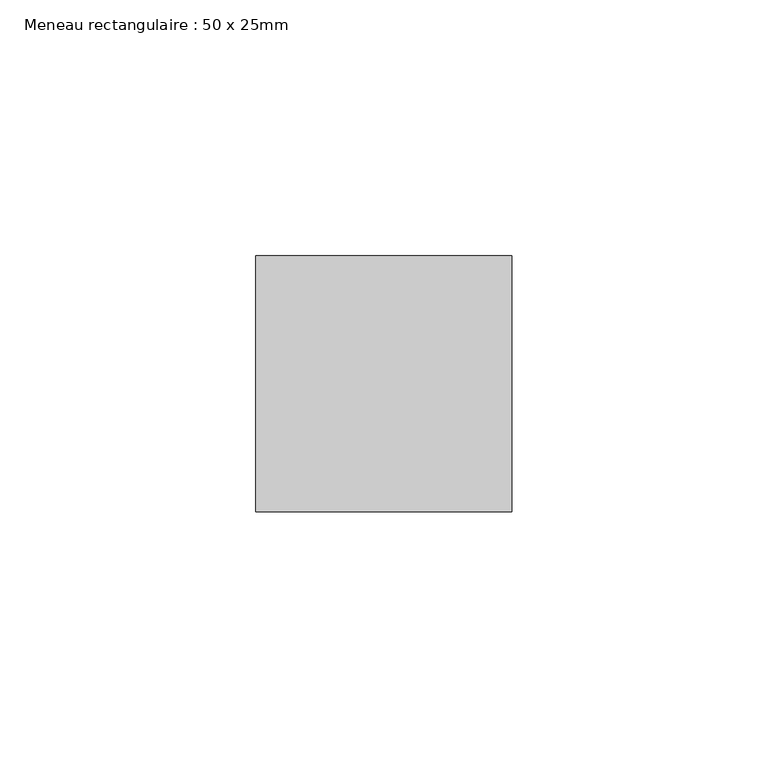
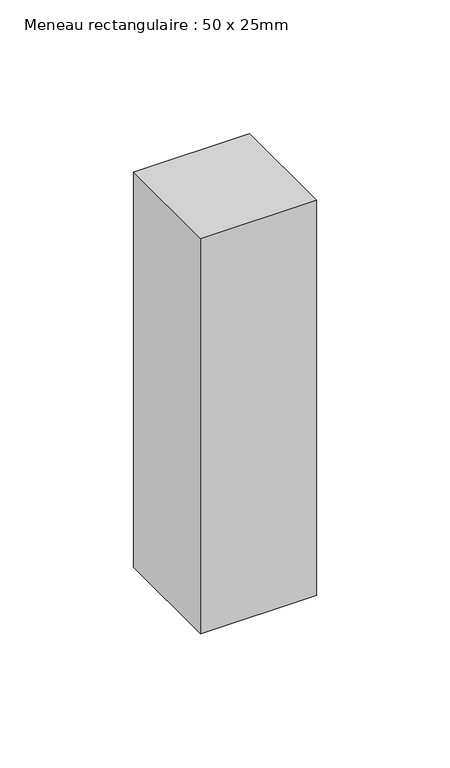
"""IFC4 building model written with IfcOpenShell, lengths in millimetres: member geometry, Meneau rectangulaire : 50 x 25mm."""

import ifcopenshell
import ifcopenshell.guid

model = None  # the IFC model being written
_history = None  # IfcOwnerHistory: only IFC2X3 demands one
_inside = {}  # id of a spatial element -> (the spatial element, [elements in it])
_under = {}  # id of a project, library or spatial element -> (it, [spatial elements below it])
_declared = {}  # id of a project -> (the project, [libraries it declares])
_typed = {}  # id of a type object -> (the type object, [elements of that type])
_made_of = {}  # id of a material, layer set ... -> (it, [elements and type objects made of it])


def new_model(schema):
    """Start an empty IFC model of exactly this schema.

    Asked for "IFC4X3", IfcOpenShell would pick the latest addendum, in which some entities
    have other attributes; the version numbers below select the first issue.
    IFC2X3 requires an IfcOwnerHistory on every rooted entity: one is made here for all.
    """
    global model, _history
    if schema == "IFC4X3":
        model = ifcopenshell.file(schema_version=(4, 3, 0, 0))
    else:
        model = ifcopenshell.file(schema=schema)
    _inside.clear()
    _under.clear()
    _declared.clear()
    _typed.clear()
    _made_of.clear()
    _history = None
    if model.schema == "IFC2X3":
        org = make("IfcOrganization", Name="unknown")
        user = make(
            "IfcPersonAndOrganization",
            ThePerson=make("IfcPerson", FamilyName="unknown"),
            TheOrganization=org,
        )
        app = make(
            "IfcApplication",
            ApplicationDeveloper=org,
            Version="unknown",
            ApplicationFullName="unknown",
            ApplicationIdentifier="unknown",
        )
        _history = make(
            "IfcOwnerHistory",
            OwningUser=user,
            OwningApplication=app,
            ChangeAction="ADDED",
            CreationDate=0,
        )
    return model


def make(cls, **values):
    """One entity of the class cls with the attributes given. An attribute that is None is left unset."""
    return model.create_entity(
        cls, **{name: value for name, value in values.items() if value is not None}
    )


def rooted(cls, **values):
    """An entity with a GlobalId (a new one), such as an element, a storey or a relation."""
    return make(cls, GlobalId=ifcopenshell.guid.new(), OwnerHistory=_history, **values)


def si_unit(unit_type, name, prefix=None):
    """IfcSIUnit, for example si_unit("LENGTHUNIT", "METRE", prefix="MILLI")."""
    return make("IfcSIUnit", UnitType=unit_type, Prefix=prefix, Name=name)


def assignment(units):
    """IfcUnitAssignment: the units of a project."""
    return None if units is None else make("IfcUnitAssignment", Units=units)


def point(xyz):
    """IfcCartesianPoint."""
    return None if xyz is None else make("IfcCartesianPoint", Coordinates=xyz)


def direction(xyz):
    """IfcDirection."""
    return None if xyz is None else make("IfcDirection", DirectionRatios=xyz)


def frame(location, z_axis=None, x_axis=None):
    """IfcAxis2Placement3D, a coordinate frame: its origin and axes. An axis left out is left unset."""
    return make(
        "IfcAxis2Placement3D",
        Location=point(location),
        Axis=direction(z_axis),
        RefDirection=direction(x_axis),
    )


def origin():
    """The frame at (0, 0, 0) with its axes left unset."""
    return frame((0.0, 0.0, 0.0))


def place(relative_to, where):
    """IfcLocalPlacement: puts the frame where relative to a parent placement (None: the world)."""
    return make(
        "IfcLocalPlacement", PlacementRelTo=relative_to, RelativePlacement=where
    )


def context(
    kind, dimensions, precision=None, world=None, true_north=None, identifier=None
):
    """IfcGeometricRepresentationContext, for example the 3D "Model" context."""
    return make(
        "IfcGeometricRepresentationContext",
        ContextIdentifier=identifier,
        ContextType=kind,
        CoordinateSpaceDimension=dimensions,
        Precision=precision,
        WorldCoordinateSystem=world,
        TrueNorth=true_north,
    )


def project(units=None, contexts=None):
    """IfcProject with its units and contexts."""
    return rooted(
        "IfcProject",
        Name="project",
        RepresentationContexts=contexts,
        UnitsInContext=assignment(units),
    )


def spatial(cls, under=None, at=None, **own):
    """A site, building, storey or space (cls), placed at a placement, below another one or the project."""
    s = rooted(cls, ObjectPlacement=at, **own)
    if under is not None:
        _under.setdefault(under.id(), (under, []))[1].append(s)
    return s


def polyline(points):
    """IfcPolyline through the points."""
    return make("IfcPolyline", Points=[point(p) for p in points])


def outline(outer, holes=None, kind="AREA"):
    """IfcArbitraryClosedProfileDef: a profile drawn as a closed curve; with holes, ...WithVoids."""
    if holes is None:
        return make("IfcArbitraryClosedProfileDef", ProfileType=kind, OuterCurve=outer)
    return make(
        "IfcArbitraryProfileDefWithVoids",
        ProfileType=kind,
        OuterCurve=outer,
        InnerCurves=holes,
    )


def extrude(swept, where, along, depth):
    """IfcExtrudedAreaSolid: the profile swept, set in the frame where, extruded along a direction by depth."""
    return make(
        "IfcExtrudedAreaSolid",
        SweptArea=swept,
        Position=where,
        ExtrudedDirection=direction(along),
        Depth=depth,
    )


def shape(context_of_items, identifier, shape_type, items):
    """IfcShapeRepresentation: the items that make up one representation, for example the "Body"."""
    return make(
        "IfcShapeRepresentation",
        ContextOfItems=context_of_items,
        RepresentationIdentifier=identifier,
        RepresentationType=shape_type,
        Items=items,
    )


def source(mapping_origin, context_of_items, identifier, shape_type, items):
    """IfcRepresentationMap: a shape defined once, which mapped items show again and again."""
    return make(
        "IfcRepresentationMap",
        MappingOrigin=mapping_origin,
        MappedRepresentation=shape(context_of_items, identifier, shape_type, items),
    )


def transform(
    local_origin,
    x_axis=None,
    y_axis=None,
    z_axis=None,
    scale=None,
    scale2=None,
    scale3=None,
    uniform=True,
):
    """IfcCartesianTransformationOperator3D, or its non-uniform kind. x_axis, y_axis, z_axis: its Axis1, 2, 3."""
    if uniform:
        return make(
            "IfcCartesianTransformationOperator3D",
            Axis1=direction(x_axis),
            Axis2=direction(y_axis),
            LocalOrigin=point(local_origin),
            Scale=scale,
            Axis3=direction(z_axis),
        )
    return make(
        "IfcCartesianTransformationOperator3DnonUniform",
        Axis1=direction(x_axis),
        Axis2=direction(y_axis),
        LocalOrigin=point(local_origin),
        Scale=scale,
        Axis3=direction(z_axis),
        Scale2=scale2,
        Scale3=scale3,
    )


def mapped(mapping_source, mapping_target):
    """IfcMappedItem: shows the shape of a source again, moved by a transform."""
    return make(
        "IfcMappedItem", MappingSource=mapping_source, MappingTarget=mapping_target
    )


def made_of(thing, what):
    """Note that an element or type object is made of a material, layer set ...; save() writes the relation."""
    if what is not None:
        _made_of.setdefault(what.id(), (what, []))[1].append(thing)
    return thing


def element(
    cls,
    number,
    at=None,
    inside=None,
    cuts=None,
    type_object=None,
    material=None,
    context=None,
    identifier="Body",
    shape_type=None,
    held_by="IfcProductDefinitionShape",
    body=None,
    shapes=None,
    **own,
):
    """One element of the class cls, such as IfcWall. Its Tag is "e" and its number.

    at: its placement. inside: the storey or other place that contains it. cuts: it is an
    opening in that element (IfcRelVoidsElement). A single representation is given by context,
    identifier, shape_type and body (its items); several are given by shapes. held_by: the class
    of the entity that holds the representations. save() writes the other relations.
    """
    e = rooted(cls, Tag="e%d" % number, ObjectPlacement=at, **own)
    if body is not None:
        shapes = [shape(context, identifier, shape_type, body)]
    if shapes is not None:
        e.Representation = make(held_by, Representations=shapes)
    if inside is not None:
        _inside.setdefault(inside.id(), (inside, []))[1].append(e)
    if cuts is not None:
        rooted(
            "IfcRelVoidsElement", RelatingBuildingElement=cuts, RelatedOpeningElement=e
        )
    if type_object is not None:
        _typed.setdefault(type_object.id(), (type_object, []))[1].append(e)
    return made_of(e, material)


def aggregate(whole, parts):
    """IfcRelAggregates: a whole, such as a stair, and the parts it consists of."""
    return rooted("IfcRelAggregates", RelatingObject=whole, RelatedObjects=parts)


def save(model, path):
    """Write the relations noted so far, then the file.

    IfcRelAggregates (storeys below a building ...), IfcRelContainedInSpatialStructure (elements
    in a storey), IfcRelDefinesByType, IfcRelAssociatesMaterial and IfcRelDeclares: one each for
    every whole, place, type object, material and project.
    """
    for whole, parts in _under.values():
        aggregate(whole, parts)
    for where, things in _inside.values():
        rooted(
            "IfcRelContainedInSpatialStructure",
            RelatedElements=things,
            RelatingStructure=where,
        )
    for kind, things in _typed.values():
        rooted("IfcRelDefinesByType", RelatedObjects=things, RelatingType=kind)
    for what, things in _made_of.values():
        rooted("IfcRelAssociatesMaterial", RelatedObjects=things, RelatingMaterial=what)
    for by, libraries in _declared.values():
        rooted("IfcRelDeclares", RelatingContext=by, RelatedDefinitions=libraries)
    model.write(path)


def meneau_rectangulaire_50_x_25mm_43381e7f(model_context):
    return source(origin(), model_context, "Body", "SweptSolid", [
        extrude(outline(polyline([(0.0, 0.0), (0.0, -50.0), (-50.0, -50.0), (-50.0, 0.0), (0.0, 0.0)])), frame((0.0, 0.0, -180.5147186), z_axis=(0.0, 0.0, 1.0), x_axis=(1.0, 0.0, 0.0)), (0.0, 0.0, 1.0), 180.5147186),
    ])


if __name__ == "__main__":
    model = new_model("IFC4")
    model_context = context("Model", 3, world=origin())
    ifc_project = project(units=[si_unit("LENGTHUNIT", "METRE", prefix="MILLI")], contexts=[model_context])
    site = spatial("IfcSite", under=ifc_project)
    building = spatial("IfcBuilding", under=site)
    placement = place(None, origin())
    meneau_rectangulaire_50_x_25mm_shape = meneau_rectangulaire_50_x_25mm_43381e7f(model_context)
    element("IfcMember", 1, ObjectType="Meneau rectangulaire : 50 x 25mm", at=placement, inside=building, context=model_context, shape_type="MappedRepresentation", body=[
        mapped(meneau_rectangulaire_50_x_25mm_shape, transform((0.0, 0.0, 0.0), x_axis=(1.0, 0.0, 0.0), y_axis=(0.0, 1.0, 0.0), z_axis=(0.0, 0.0, 1.0))),
    ])
    save(model, "model.ifc")
